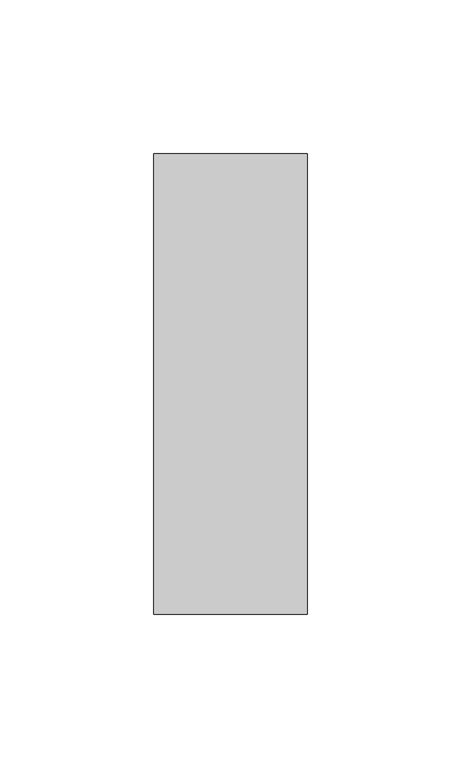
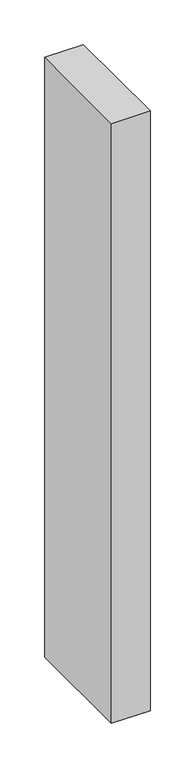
"""IFC4 building model written with IfcOpenShell, lengths in millimetres: member geometry, Прямоугольный импост : 50 x 150 мм."""

from ifc_helpers import new_model, si_unit, frame, origin, place, context, project, spatial, polyline, outline, extrude, source, transform, mapped, element, save


def member_f98049de(model_context):
    return source(origin(), model_context, "Body", "SweptSolid", [
        extrude(outline(polyline([(0.0, 75.0), (0.0, -75.0), (-50.0, -75.0), (-50.0, 75.0), (0.0, 75.0)])), frame((0.0, 0.0, -821.2793117), z_axis=(0.0, 0.0, 1.0), x_axis=(1.0, 0.0, 0.0)), (0.0, 0.0, 1.0), 821.2793117),
    ])


if __name__ == "__main__":
    model = new_model("IFC4")
    model_context = context("Model", 3, world=origin())
    ifc_project = project(units=[si_unit("LENGTHUNIT", "METRE", prefix="MILLI")], contexts=[model_context])
    site = spatial("IfcSite", under=ifc_project)
    building = spatial("IfcBuilding", under=site)
    placement = place(None, origin())
    member_shape = member_f98049de(model_context)
    element("IfcMember", 1, ObjectType="Прямоугольный импост : 50 x 150 мм", at=placement, inside=building, context=model_context, shape_type="MappedRepresentation", body=[
        mapped(member_shape, transform((0.0, 0.0, 0.0), x_axis=(1.0, 0.0, 0.0), y_axis=(0.0, 1.0, 0.0), z_axis=(0.0, 0.0, 1.0))),
    ])
    save(model, "model.ifc")
